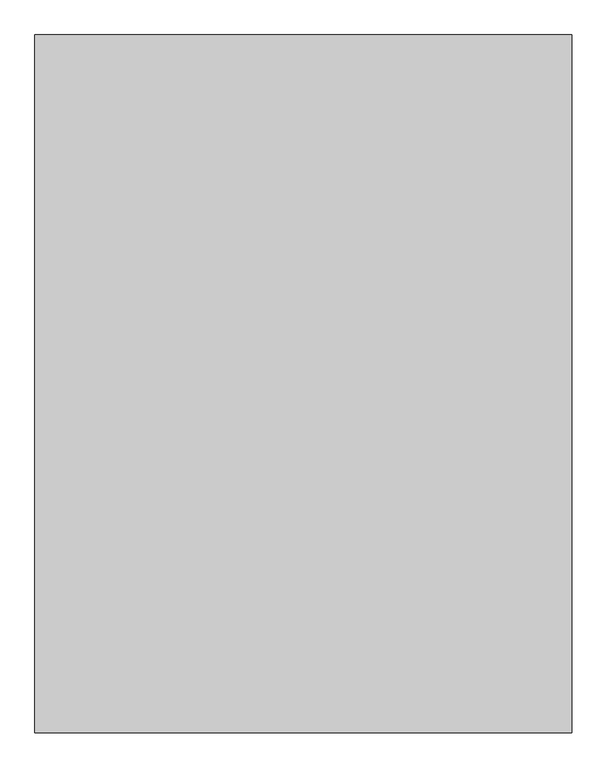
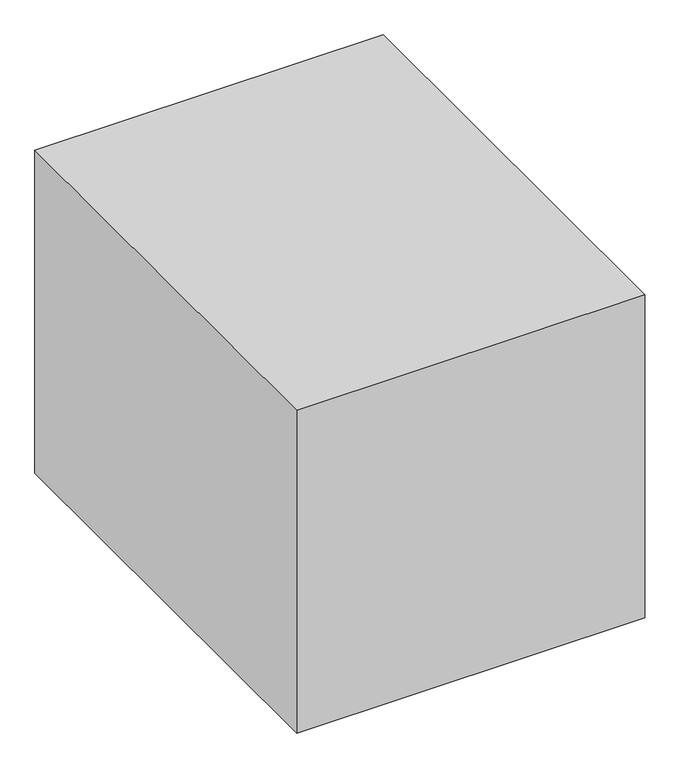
"""IFC4 building model written with IfcOpenShell, lengths in millimetres: proxy geometry, CU - Trane - 10 Ton : CU - Trane - 10 Ton."""

from ifc_helpers import new_model, si_unit, origin, origin_with_axes, place, context, project, spatial, polyline, outline, extrude, source, transform, mapped, element, save


def mechanical_equipment_ae1ff904(model_context):
    return source(origin(), model_context, "Body", "SweptSolid", [
        extrude(outline(polyline([(507.20625, 659.60625), (507.20625, -659.60625), (-507.20625, -659.60625), (-507.20625, 659.60625), (507.20625, 659.60625)])), origin_with_axes(), (0.0, 0.0, 1.0), 993.775),
    ])


if __name__ == "__main__":
    model = new_model("IFC4")
    model_context = context("Model", 3, world=origin())
    ifc_project = project(units=[si_unit("LENGTHUNIT", "METRE", prefix="MILLI")], contexts=[model_context])
    site = spatial("IfcSite", under=ifc_project)
    building = spatial("IfcBuilding", under=site)
    placement = place(None, origin())
    mechanical_equipment_shape = mechanical_equipment_ae1ff904(model_context)
    element("IfcBuildingElementProxy", 1, Name="CU - Trane - 10 Ton : CU - Trane - 10 Ton", ObjectType="CU - Trane - 10 Ton : CU - Trane - 10 Ton", at=placement, inside=building, context=model_context, shape_type="MappedRepresentation", body=[
        mapped(mechanical_equipment_shape, transform((0.0, 0.0, 0.0), x_axis=(1.0, 0.0, 0.0), y_axis=(0.0, 1.0, 0.0), z_axis=(0.0, 0.0, 1.0))),
    ])
    save(model, "model.ifc")
